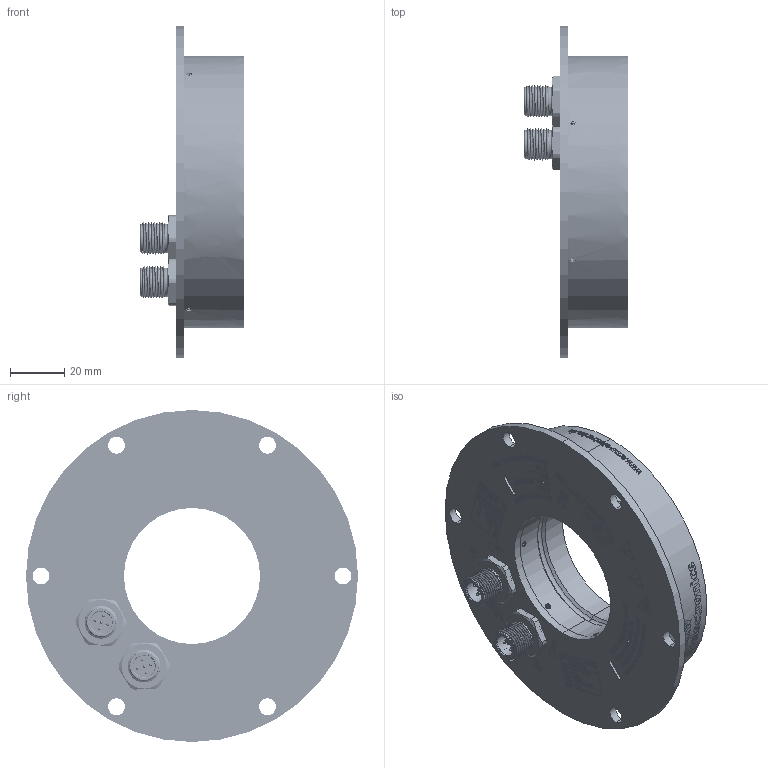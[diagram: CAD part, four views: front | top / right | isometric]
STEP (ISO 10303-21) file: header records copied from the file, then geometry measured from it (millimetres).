
FILE_DESCRIPTION (( 'STEP AP203' ), '1' );
FILE_NAME ('K0E012332_IC-BASE F100_50_zum_Versenden.STEP', '2023-12-22T07:19:23', ( '' ), ( '' ), 'SwSTEP 2.0', 'SolidWorks 2023', '' );
FILE_SCHEMA (( 'CONFIG_CONTROL_DESIGN' ));
Length unit declared in the file: millimetre
Products named in the file (1): K0E012332_IC-BASE F100_50_zum_Versenden
Bounding box: 37.9 x 122 x 122 mm (x, y, z)
Surface area: 72304.6 mm2 (no closed solid volume)
Topology: 0 solids, 67 shells, 5799 faces, 16196 edges, 11046 vertices
Faces by surface type: plane 3128, bspline 1967, cylinder 464, cone 164, torus 76
Entity records: 297713 total; most frequent: CARTESIAN_POINT 161846, ORIENTED_EDGE 31816, DIRECTION 20586, EDGE_CURVE 16188, VERTEX_POINT 11046, LINE 10130, VECTOR 10130, EDGE_LOOP 6510
